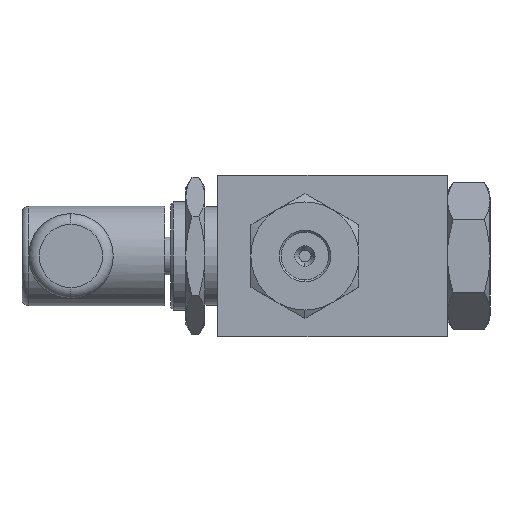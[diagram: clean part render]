
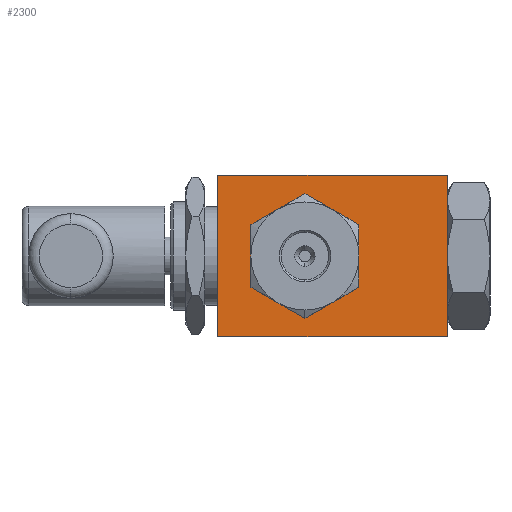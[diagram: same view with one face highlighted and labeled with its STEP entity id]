
A CAD part, left-side view. The second image highlights one B-rep face of the part: STEP entity #2300.
In plain terms, the highlighted planar face has unit normal (-1, 0, 0).
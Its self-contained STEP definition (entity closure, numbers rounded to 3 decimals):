
#32 = PLANE ( 'NONE',  #4762 ) ;
#110 = CIRCLE ( 'NONE', #6148, 11. ) ;
#114 = CIRCLE ( 'NONE', #635, 11. ) ;
#254 = DIRECTION ( 'NONE',  ( 1., 0., 0. ) ) ;
#395 = VECTOR ( 'NONE', #4823, 1000. ) ;
#477 = DIRECTION ( 'NONE',  ( 1., 0., 0. ) ) ;
#504 = DIRECTION ( 'NONE',  ( 1., 0., 0. ) ) ;
#519 = FACE_OUTER_BOUND ( 'NONE', #945, .T. ) ;
#619 = VERTEX_POINT ( 'NONE', #5527 ) ;
#635 = AXIS2_PLACEMENT_3D ( 'NONE', #3809, #254, #2743 ) ;
#754 = CARTESIAN_POINT ( 'NONE',  ( -33.25, -4.5, 0. ) ) ;
#792 = AXIS2_PLACEMENT_3D ( 'NONE', #4076, #2097, #4626 ) ;
#855 = CARTESIAN_POINT ( 'NONE',  ( -33.25, -27., -19. ) ) ;
#864 = CARTESIAN_POINT ( 'NONE',  ( -33.25, 6.5, 0. ) ) ;
#945 = EDGE_LOOP ( 'NONE', ( #2981, #2133, #4816, #2069 ) ) ;
#1008 = EDGE_CURVE ( 'NONE', #3977, #2948, #2267, .T. ) ;
#1106 = CARTESIAN_POINT ( 'NONE',  ( -33.25, 6.5, 0. ) ) ;
#1205 = CARTESIAN_POINT ( 'NONE',  ( -33.25, -27., 19. ) ) ;
#1293 = CARTESIAN_POINT ( 'NONE',  ( -33.25, 27., 19. ) ) ;
#1301 = DIRECTION ( 'NONE',  ( 0., 0., -1. ) ) ;
#1315 = EDGE_CURVE ( 'NONE', #4244, #1651, #2461, .T. ) ;
#1354 = AXIS2_PLACEMENT_3D ( 'NONE', #3035, #5018, #2187 ) ;
#1392 = DIRECTION ( 'NONE',  ( 1., 0., 0. ) ) ;
#1537 = DIRECTION ( 'NONE',  ( 0., 0., -1. ) ) ;
#1651 = VERTEX_POINT ( 'NONE', #4977 ) ;
#1730 = ORIENTED_EDGE ( 'NONE', *, *, #1315, .T. ) ;
#1906 = EDGE_CURVE ( 'NONE', #3977, #5001, #5540, .T. ) ;
#1931 = CARTESIAN_POINT ( 'NONE',  ( -33.25, 6.5, 0. ) ) ;
#1932 = ORIENTED_EDGE ( 'NONE', *, *, #4665, .T. ) ;
#2007 = ORIENTED_EDGE ( 'NONE', *, *, #5311, .T. ) ;
#2019 = CARTESIAN_POINT ( 'NONE',  ( -33.25, -27., 19. ) ) ;
#2063 = ORIENTED_EDGE ( 'NONE', *, *, #3673, .T. ) ;
#2069 = ORIENTED_EDGE ( 'NONE', *, *, #1906, .T. ) ;
#2097 = DIRECTION ( 'NONE',  ( 1., 0., 0. ) ) ;
#2133 = ORIENTED_EDGE ( 'NONE', *, *, #3472, .F. ) ;
#2173 = DIRECTION ( 'NONE',  ( 0., -1., 0. ) ) ;
#2187 = DIRECTION ( 'NONE',  ( 0., 0., -1. ) ) ;
#2267 = LINE ( 'NONE', #5680, #5898 ) ;
#2300 = ADVANCED_FACE ( 'NONE', ( #519, #4493 ), #32, .F. ) ;
#2327 = ORIENTED_EDGE ( 'NONE', *, *, #5842, .T. ) ;
#2461 = CIRCLE ( 'NONE', #792, 11. ) ;
#2533 = DIRECTION ( 'NONE',  ( 0., 0., -1. ) ) ;
#2570 = DIRECTION ( 'NONE',  ( 0., 0., -1. ) ) ;
#2732 = EDGE_CURVE ( 'NONE', #5001, #5366, #2848, .T. ) ;
#2743 = DIRECTION ( 'NONE',  ( 0., 0., -1. ) ) ;
#2809 = AXIS2_PLACEMENT_3D ( 'NONE', #1106, #477, #2570 ) ;
#2848 = LINE ( 'NONE', #855, #395 ) ;
#2946 = CARTESIAN_POINT ( 'NONE',  ( -33.25, 17.5, 0. ) ) ;
#2948 = VERTEX_POINT ( 'NONE', #6069 ) ;
#2981 = ORIENTED_EDGE ( 'NONE', *, *, #2732, .T. ) ;
#3035 = CARTESIAN_POINT ( 'NONE',  ( -33.25, 6.5, 0. ) ) ;
#3110 = VERTEX_POINT ( 'NONE', #754 ) ;
#3124 = CIRCLE ( 'NONE', #4579, 11. ) ;
#3472 = EDGE_CURVE ( 'NONE', #2948, #5366, #4259, .T. ) ;
#3536 = AXIS2_PLACEMENT_3D ( 'NONE', #4965, #504, #2533 ) ;
#3565 = DIRECTION ( 'NONE',  ( 0., 0., -1. ) ) ;
#3673 = EDGE_CURVE ( 'NONE', #619, #3110, #4469, .T. ) ;
#3710 = DIRECTION ( 'NONE',  ( 0., 0., -1. ) ) ;
#3744 = ORIENTED_EDGE ( 'NONE', *, *, #4054, .T. ) ;
#3809 = CARTESIAN_POINT ( 'NONE',  ( -33.25, 6.5, 0. ) ) ;
#3857 = DIRECTION ( 'NONE',  ( 1., 0., 0. ) ) ;
#3977 = VERTEX_POINT ( 'NONE', #1293 ) ;
#4003 = DIRECTION ( 'NONE',  ( 1., 0., 0. ) ) ;
#4051 = VECTOR ( 'NONE', #3710, 1000. ) ;
#4054 = EDGE_CURVE ( 'NONE', #4996, #5374, #110, .T. ) ;
#4056 = CARTESIAN_POINT ( 'NONE',  ( -33.25, 12., -9.526 ) ) ;
#4068 = ORIENTED_EDGE ( 'NONE', *, *, #5076, .T. ) ;
#4076 = CARTESIAN_POINT ( 'NONE',  ( -33.25, 6.5, 0. ) ) ;
#4082 = VERTEX_POINT ( 'NONE', #2946 ) ;
#4094 = CARTESIAN_POINT ( 'NONE',  ( -33.25, 27., -19. ) ) ;
#4244 = VERTEX_POINT ( 'NONE', #4630 ) ;
#4259 = LINE ( 'NONE', #1205, #4051 ) ;
#4469 = CIRCLE ( 'NONE', #3536, 11. ) ;
#4493 = FACE_BOUND ( 'NONE', #4499, .T. ) ;
#4499 = EDGE_LOOP ( 'NONE', ( #3744, #2007, #4068, #1730, #2327, #2063, #1932 ) ) ;
#4579 = AXIS2_PLACEMENT_3D ( 'NONE', #864, #1392, #1301 ) ;
#4626 = DIRECTION ( 'NONE',  ( 0., 0., -1. ) ) ;
#4630 = CARTESIAN_POINT ( 'NONE',  ( -33.25, 12., 9.526 ) ) ;
#4665 = EDGE_CURVE ( 'NONE', #3110, #4996, #5713, .T. ) ;
#4762 = AXIS2_PLACEMENT_3D ( 'NONE', #2019, #4003, #1537 ) ;
#4816 = ORIENTED_EDGE ( 'NONE', *, *, #1008, .F. ) ;
#4823 = DIRECTION ( 'NONE',  ( 0., -1., 0. ) ) ;
#4956 = VECTOR ( 'NONE', #3565, 1000. ) ;
#4965 = CARTESIAN_POINT ( 'NONE',  ( -33.25, 6.5, 0. ) ) ;
#4977 = CARTESIAN_POINT ( 'NONE',  ( -33.25, 6.5, 11. ) ) ;
#4996 = VERTEX_POINT ( 'NONE', #6053 ) ;
#5001 = VERTEX_POINT ( 'NONE', #4094 ) ;
#5018 = DIRECTION ( 'NONE',  ( 1., 0., 0. ) ) ;
#5076 = EDGE_CURVE ( 'NONE', #4082, #4244, #5716, .T. ) ;
#5311 = EDGE_CURVE ( 'NONE', #5374, #4082, #3124, .T. ) ;
#5366 = VERTEX_POINT ( 'NONE', #5907 ) ;
#5374 = VERTEX_POINT ( 'NONE', #4056 ) ;
#5446 = DIRECTION ( 'NONE',  ( 0., 0., -1. ) ) ;
#5527 = CARTESIAN_POINT ( 'NONE',  ( -33.25, 1., 9.526 ) ) ;
#5540 = LINE ( 'NONE', #6035, #4956 ) ;
#5680 = CARTESIAN_POINT ( 'NONE',  ( -33.25, -27., 19. ) ) ;
#5713 = CIRCLE ( 'NONE', #1354, 11. ) ;
#5716 = CIRCLE ( 'NONE', #2809, 11. ) ;
#5842 = EDGE_CURVE ( 'NONE', #1651, #619, #114, .T. ) ;
#5898 = VECTOR ( 'NONE', #2173, 1000. ) ;
#5907 = CARTESIAN_POINT ( 'NONE',  ( -33.25, -27., -19. ) ) ;
#6035 = CARTESIAN_POINT ( 'NONE',  ( -33.25, 27., 19. ) ) ;
#6053 = CARTESIAN_POINT ( 'NONE',  ( -33.25, 1., -9.526 ) ) ;
#6069 = CARTESIAN_POINT ( 'NONE',  ( -33.25, -27., 19. ) ) ;
#6148 = AXIS2_PLACEMENT_3D ( 'NONE', #1931, #3857, #5446 ) ;
